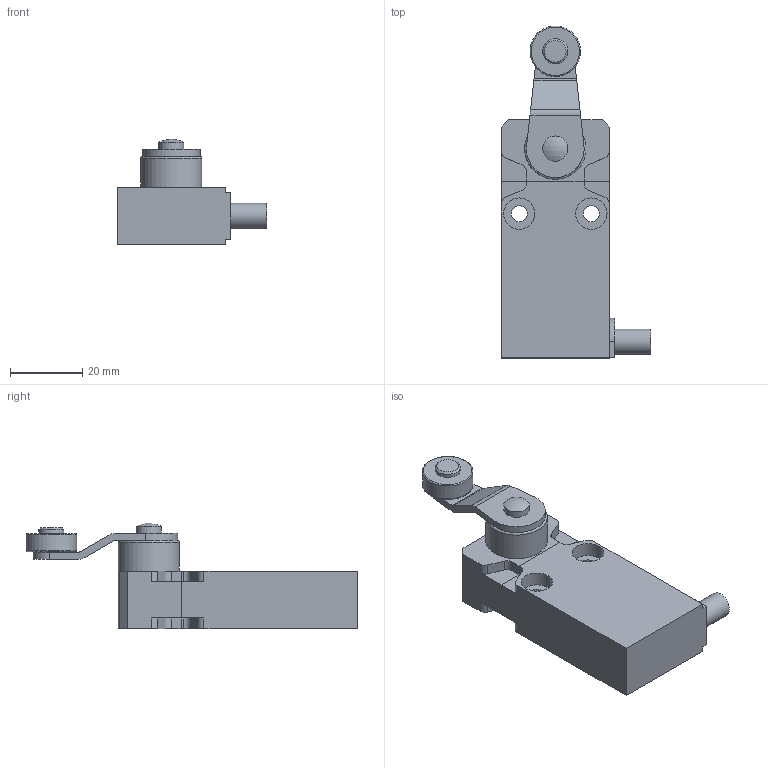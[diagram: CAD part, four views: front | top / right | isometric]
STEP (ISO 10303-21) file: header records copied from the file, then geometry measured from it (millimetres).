
FILE_DESCRIPTION(/* description */ (''),/* implementation_level */ '2;1');
FILE_NAME(/* name */ 'C:\Users\servizio.tecnico\Desktop\CADENAS\3D\EP1_STP\STP_EP1_G43U.stp',/* time_stamp */ '2017-09-01T08:32:09+02:00',/* author */ ('servizio.tecnico'),/* organization */ (''),/* preprocessor_version */ 'ST-DEVELOPER v16.1',/* originating_system */ 'Autodesk Inventor 2016',/* authorisation */ '');
FILE_SCHEMA (('AUTOMOTIVE_DESIGN { 1 0 10303 214 3 1 1 }'));
Length unit declared in the file: millimetre
Products named in the file (3): Product; EP1G43; BASE ASSI 
Assembly tree (2 placements, depth 3):
  BASE ASSI 
    EP1G43
      Product
Bounding box: 41.5 x 92 x 29.28 mm (x, y, z)
Volume: 33531.3 mm3; surface area: 11281.3 mm2
Topology: 4 solids, 4 shells, 111 faces, 280 edges, 187 vertices
Faces by surface type: plane 66, cylinder 40, torus 3, cone 1, sphere 1
Full cylindrical faces by diameter (mm): 4.4 x2, 5 x2, 7 x3, 8.7 x4, 14 x1, 17 x1
Entity records: 3335 total; most frequent: DIRECTION 574, CARTESIAN_POINT 554, ORIENTED_EDGE 514, EDGE_CURVE 257, AXIS2_PLACEMENT_3D 201, VERTEX_POINT 181, LINE 172, VECTOR 172
